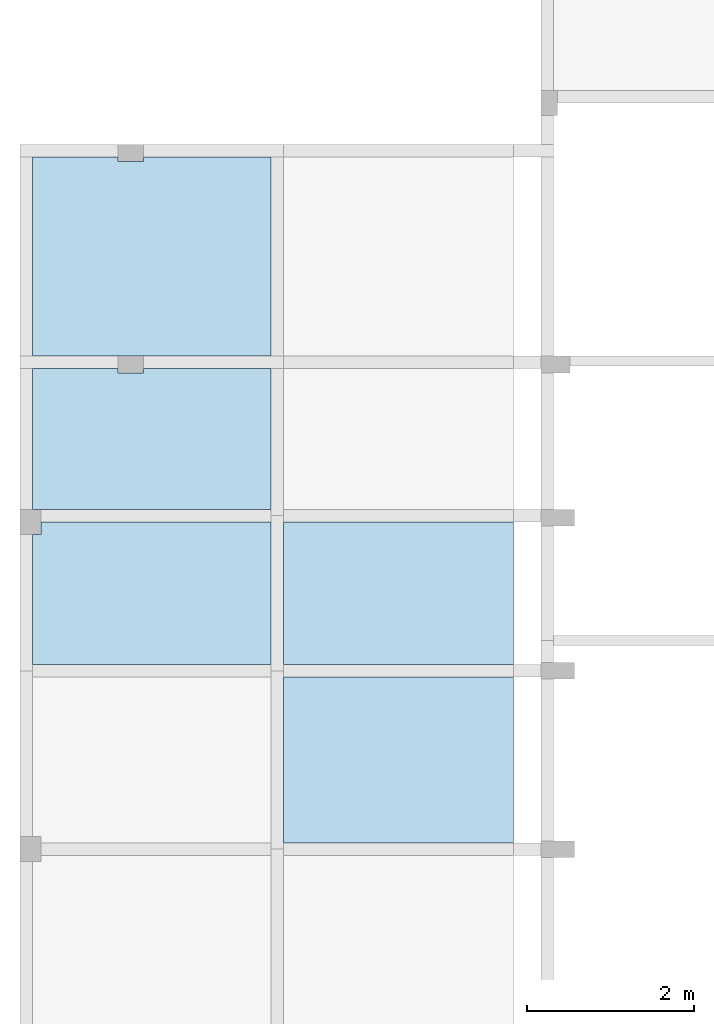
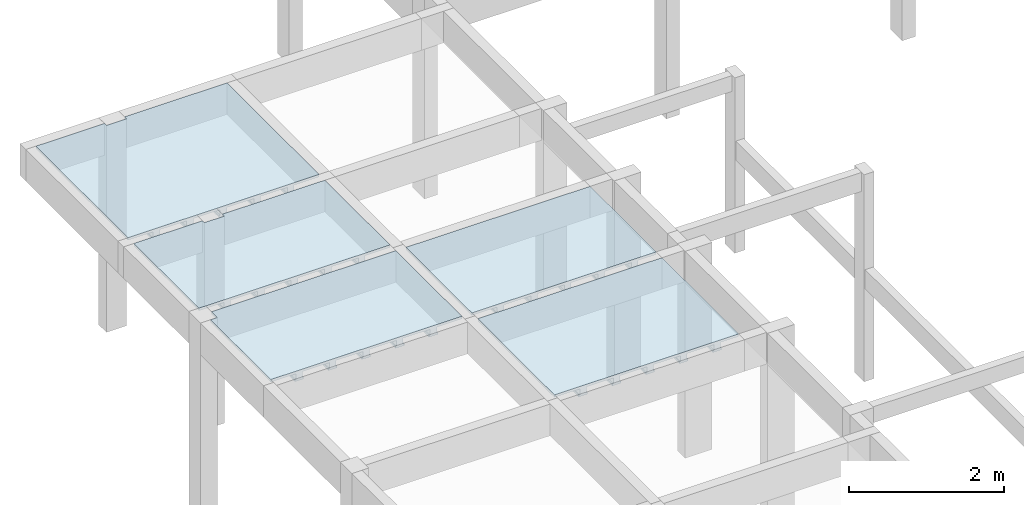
# One storey, part 4 of 6: 5 slabs.
"""IFC4 building model written with IfcOpenShell, lengths in centimetres."""

from ifc_helpers import new_model, si_unit, derived_unit, frame, origin_with_axes, place, context, project, spatial, polyline, outline, extrude, faceted_brep, material, element, save


model = new_model("IFC4")

# Units and contexts
model_context = context("Model", 3, precision=1e-05, world=origin_with_axes(), identifier="Body")
ifc_project = project(units=[si_unit("LENGTHUNIT", "METRE", prefix="CENTI"), si_unit("VOLUMEUNIT", "CUBIC_METRE"), si_unit("AREAUNIT", "SQUARE_METRE"), si_unit("POWERUNIT", "WATT"), si_unit("LUMINOUSFLUXUNIT", "LUMEN"), si_unit("ELECTRICCURRENTUNIT", "AMPERE"), si_unit("PRESSUREUNIT", "PASCAL", prefix="KILO"), si_unit("MASSUNIT", "GRAM", prefix="KILO"), si_unit("PLANEANGLEUNIT", "RADIAN"), derived_unit("VOLUMETRICFLOWRATEUNIT", [(si_unit("LENGTHUNIT", "METRE"), 3), (si_unit("TIMEUNIT", "SECOND"), -1)])], contexts=[model_context])

# Site, building, storey
site_placement = place(None, origin_with_axes())
site = spatial("IfcSite", under=ifc_project, at=site_placement)
building_placement = place(site_placement, frame((0.0, 0.0, -295.0)))
building = spatial("IfcBuilding", under=site, at=building_placement)
placement_1 = place(building_placement, origin_with_axes())
placement_2 = place(placement_1, frame((0.0, 0.0, 101.0), z_axis=(0.0, 0.0, 1.0), x_axis=(1.0, 0.0, 0.0)))
placement_3 = place(placement_2, frame((0.0, 0.0, 204.0), z_axis=(0.0, 0.0, 1.0), x_axis=(1.0, 0.0, 0.0)))
placement_4 = place(placement_3, frame((0.0, 0.0, 292.0), z_axis=(0.0, 0.0, 1.0), x_axis=(1.0, 0.0, 0.0)))
placement_5 = place(placement_4, frame((0.0, 0.0, 302.0), z_axis=(0.0, 0.0, 1.0), x_axis=(1.0, 0.0, 0.0)))
storey_placement = place(placement_5, frame((0.0, 0.0, 326.0), z_axis=(0.0, 0.0, 1.0), x_axis=(1.0, 0.0, 0.0)))
storey = spatial("IfcBuildingStorey", under=building, at=storey_placement, Name="COB CX DAGUA", CompositionType="ELEMENT", Elevation=930.0)

# Slabs
ifc_material = material(Name="Concreto")
slab_1_placement = place(storey_placement, frame((709.0655, -5618.0, 0.0), z_axis=(0.0, 0.0, 1.0), x_axis=(1.0, 0.0, 0.0)))
element("IfcSlab", 1, at=slab_1_placement, inside=storey, material=ifc_material, Name="L305", PredefinedType="FLOOR", context=model_context, shape_type="SolidModel", body=[
    extrude(outline(polyline([(142.335, 118.839), (-10.134, 118.84), (-10.135, 113.84), (-40.135, 113.84), (-40.134, 118.839), (-142.334, 118.84), (-142.334, -118.839), (142.335, -118.84), (142.335, 118.839), (142.335, 118.839)])), frame((-0.0005, 0.0, -4.0), z_axis=(0.0, 0.0, 1.0), x_axis=(1.0, 0.0, 0.0)), (0.0, 0.0, 1.0), 4.0),
    faceted_brep([(-5.0005, -118.8395, -16.0), (-5.0005, 118.8395, -16.0), (4.9995, 118.8395, -16.0), (4.9995, -118.8395, -16.0), (4.9995, -118.8395, -4.0), (4.9995, 118.8395, -4.0), (-5.0005, 118.8395, -4.0), (-5.0005, -118.8395, -4.0)], [[[0, 1, 2, 3]], [[4, 5, 6, 7]], [[4, 3, 5]], [[3, 2, 5]], [[5, 2, 6]], [[2, 1, 6]], [[6, 1, 7]], [[1, 0, 7]], [[7, 0, 4]], [[0, 3, 4]]]),
    faceted_brep([(-6.5005, -118.8395, -16.0), (-6.5005, 118.8395, -16.0), (-5.0005, 118.8395, -16.0), (-5.0005, -118.8395, -16.0), (-5.0005, -118.8395, -13.0), (-5.0005, 118.8395, -13.0), (-6.5005, 118.8395, -13.0), (-6.5005, -118.8395, -13.0)], [[[0, 1, 2, 3]], [[4, 5, 6, 7]], [[4, 3, 5]], [[3, 2, 5]], [[5, 2, 6]], [[2, 1, 6]], [[6, 1, 7]], [[1, 0, 7]], [[7, 0, 4]], [[0, 3, 4]]]),
    faceted_brep([(4.9995, -118.8395, -16.0), (4.9995, 118.8395, -16.0), (6.4995, 118.8395, -16.0), (6.4995, -118.8395, -16.0), (6.4995, -118.8395, -13.0), (6.4995, 118.8395, -13.0), (4.9995, 118.8395, -13.0), (4.9995, -118.8395, -13.0)], [[[0, 1, 2, 3]], [[4, 5, 6, 7]], [[4, 3, 5]], [[3, 2, 5]], [[5, 2, 6]], [[2, 1, 6]], [[6, 1, 7]], [[1, 0, 7]], [[7, 0, 4]], [[0, 3, 4]]]),
    faceted_brep([(-55.0005, -118.8395, -16.0), (-55.0005, 118.8395, -16.0), (-45.0005, 118.8395, -16.0), (-45.0005, -118.8395, -16.0), (-45.0005, -118.8395, -4.0), (-45.0005, 118.8395, -4.0), (-55.0005, 118.8395, -4.0), (-55.0005, -118.8395, -4.0)], [[[0, 1, 2, 3]], [[4, 5, 6, 7]], [[4, 3, 5]], [[3, 2, 5]], [[5, 2, 6]], [[2, 1, 6]], [[6, 1, 7]], [[1, 0, 7]], [[7, 0, 4]], [[0, 3, 4]]]),
    faceted_brep([(-56.5005, -118.8395, -16.0), (-56.5005, 118.8395, -16.0), (-55.0005, 118.8395, -16.0), (-55.0005, -118.8395, -16.0), (-55.0005, -118.8395, -13.0), (-55.0005, 118.8395, -13.0), (-56.5005, 118.8395, -13.0), (-56.5005, -118.8395, -13.0)], [[[0, 1, 2, 3]], [[4, 5, 6, 7]], [[4, 3, 5]], [[3, 2, 5]], [[5, 2, 6]], [[2, 1, 6]], [[6, 1, 7]], [[1, 0, 7]], [[7, 0, 4]], [[0, 3, 4]]]),
    faceted_brep([(-45.0005, -118.8395, -16.0), (-45.0005, 118.8395, -16.0), (-43.5005, 118.8395, -16.0), (-43.5005, -118.8395, -16.0), (-43.5005, -118.8395, -13.0), (-43.5005, 118.8395, -13.0), (-45.0005, 118.8395, -13.0), (-45.0005, -118.8395, -13.0)], [[[0, 1, 2, 3]], [[4, 5, 6, 7]], [[4, 3, 5]], [[3, 2, 5]], [[5, 2, 6]], [[2, 1, 6]], [[6, 1, 7]], [[1, 0, 7]], [[7, 0, 4]], [[0, 3, 4]]]),
    faceted_brep([(-105.0005, -118.8395, -16.0), (-105.0005, 118.8395, -16.0), (-95.0005, 118.8395, -16.0), (-95.0005, -118.8395, -16.0), (-95.0005, -118.8395, -4.0), (-95.0005, 118.8395, -4.0), (-105.0005, 118.8395, -4.0), (-105.0005, -118.8395, -4.0)], [[[0, 1, 2, 3]], [[4, 5, 6, 7]], [[4, 3, 5]], [[3, 2, 5]], [[5, 2, 6]], [[2, 1, 6]], [[6, 1, 7]], [[1, 0, 7]], [[7, 0, 4]], [[0, 3, 4]]]),
    faceted_brep([(-106.5005, -118.8395, -16.0), (-106.5005, 118.8395, -16.0), (-105.0005, 118.8395, -16.0), (-105.0005, -118.8395, -16.0), (-105.0005, -118.8395, -13.0), (-105.0005, 118.8395, -13.0), (-106.5005, 118.8395, -13.0), (-106.5005, -118.8395, -13.0)], [[[0, 1, 2, 3]], [[4, 5, 6, 7]], [[4, 3, 5]], [[3, 2, 5]], [[5, 2, 6]], [[2, 1, 6]], [[6, 1, 7]], [[1, 0, 7]], [[7, 0, 4]], [[0, 3, 4]]]),
    faceted_brep([(-95.0005, -118.8395, -16.0), (-95.0005, 118.8395, -16.0), (-93.5005, 118.8395, -16.0), (-93.5005, -118.8395, -16.0), (-93.5005, -118.8395, -13.0), (-93.5005, 118.8395, -13.0), (-95.0005, 118.8395, -13.0), (-95.0005, -118.8395, -13.0)], [[[0, 1, 2, 3]], [[4, 5, 6, 7]], [[4, 3, 5]], [[3, 2, 5]], [[5, 2, 6]], [[2, 1, 6]], [[6, 1, 7]], [[1, 0, 7]], [[7, 0, 4]], [[0, 3, 4]]]),
    faceted_brep([(44.9995, -118.8395, -16.0), (44.9995, 118.8395, -16.0), (54.9995, 118.8395, -16.0), (54.9995, -118.8395, -16.0), (54.9995, -118.8395, -4.0), (54.9995, 118.8395, -4.0), (44.9995, 118.8395, -4.0), (44.9995, -118.8395, -4.0)], [[[0, 1, 2, 3]], [[4, 5, 6, 7]], [[4, 3, 5]], [[3, 2, 5]], [[5, 2, 6]], [[2, 1, 6]], [[6, 1, 7]], [[1, 0, 7]], [[7, 0, 4]], [[0, 3, 4]]]),
    faceted_brep([(43.4995, -118.8395, -16.0), (43.4995, 118.8395, -16.0), (44.9995, 118.8395, -16.0), (44.9995, -118.8395, -16.0), (44.9995, -118.8395, -13.0), (44.9995, 118.8395, -13.0), (43.4995, 118.8395, -13.0), (43.4995, -118.8395, -13.0)], [[[0, 1, 2, 3]], [[4, 5, 6, 7]], [[4, 3, 5]], [[3, 2, 5]], [[5, 2, 6]], [[2, 1, 6]], [[6, 1, 7]], [[1, 0, 7]], [[7, 0, 4]], [[0, 3, 4]]]),
    faceted_brep([(54.9995, -118.8395, -16.0), (54.9995, 118.8395, -16.0), (56.4995, 118.8395, -16.0), (56.4995, -118.8395, -16.0), (56.4995, -118.8395, -13.0), (56.4995, 118.8395, -13.0), (54.9995, 118.8395, -13.0), (54.9995, -118.8395, -13.0)], [[[0, 1, 2, 3]], [[4, 5, 6, 7]], [[4, 3, 5]], [[3, 2, 5]], [[5, 2, 6]], [[2, 1, 6]], [[6, 1, 7]], [[1, 0, 7]], [[7, 0, 4]], [[0, 3, 4]]]),
    faceted_brep([(94.9995, -118.8395, -16.0), (94.9995, 118.8395, -16.0), (104.9995, 118.8395, -16.0), (104.9995, -118.8395, -16.0), (104.9995, -118.8395, -4.0), (104.9995, 118.8395, -4.0), (94.9995, 118.8395, -4.0), (94.9995, -118.8395, -4.0)], [[[0, 1, 2, 3]], [[4, 5, 6, 7]], [[4, 3, 5]], [[3, 2, 5]], [[5, 2, 6]], [[2, 1, 6]], [[6, 1, 7]], [[1, 0, 7]], [[7, 0, 4]], [[0, 3, 4]]]),
    faceted_brep([(93.4995, -118.8395, -16.0), (93.4995, 118.8395, -16.0), (94.9995, 118.8395, -16.0), (94.9995, -118.8395, -16.0), (94.9995, -118.8395, -13.0), (94.9995, 118.8395, -13.0), (93.4995, 118.8395, -13.0), (93.4995, -118.8395, -13.0)], [[[0, 1, 2, 3]], [[4, 5, 6, 7]], [[4, 3, 5]], [[3, 2, 5]], [[5, 2, 6]], [[2, 1, 6]], [[6, 1, 7]], [[1, 0, 7]], [[7, 0, 4]], [[0, 3, 4]]]),
    faceted_brep([(104.9995, -118.8395, -16.0), (104.9995, 118.8395, -16.0), (106.4995, 118.8395, -16.0), (106.4995, -118.8395, -16.0), (106.4995, -118.8395, -13.0), (106.4995, 118.8395, -13.0), (104.9995, 118.8395, -13.0), (104.9995, -118.8395, -13.0)], [[[0, 1, 2, 3]], [[4, 5, 6, 7]], [[4, 3, 5]], [[3, 2, 5]], [[5, 2, 6]], [[2, 1, 6]], [[6, 1, 7]], [[1, 0, 7]], [[7, 0, 4]], [[0, 3, 4]]]),
])
slab_2_placement = place(storey_placement, frame((709.065, -5835.845, 0.0), z_axis=(0.0, 0.0, 1.0), x_axis=(1.0, 0.0, 0.0)))
element("IfcSlab", 2, at=slab_2_placement, inside=storey, material=ifc_material, Name="L307", PredefinedType="FLOOR", context=model_context, shape_type="SolidModel", body=[
    extrude(outline(polyline([(142.335, -84.004), (142.334, 84.004), (-10.134, 84.005), (-10.135, 79.004), (-40.135, 79.004), (-40.134, 84.004), (-142.335, 84.004), (-142.335, -84.005), (142.335, -84.004), (142.335, -84.004)])), frame((0.0, 0.0, -4.0), z_axis=(0.0, 0.0, 1.0), x_axis=(1.0, 0.0, 0.0)), (0.0, 0.0, 1.0), 4.0),
    faceted_brep([(-5.0, -84.0045, -16.0), (-5.0, 84.0045, -16.0), (5.0, 84.0045, -16.0), (5.0, -84.0045, -16.0), (5.0, -84.0045, -4.0), (5.0, 84.0045, -4.0), (-5.0, 84.0045, -4.0), (-5.0, -84.0045, -4.0)], [[[0, 1, 2, 3]], [[4, 5, 6, 7]], [[4, 3, 5]], [[3, 2, 5]], [[5, 2, 6]], [[2, 1, 6]], [[6, 1, 7]], [[1, 0, 7]], [[7, 0, 4]], [[0, 3, 4]]]),
    faceted_brep([(-6.5, -84.0045, -16.0), (-6.5, 84.0045, -16.0), (-5.0, 84.0045, -16.0), (-5.0, -84.0045, -16.0), (-5.0, -84.0045, -13.0), (-5.0, 84.0045, -13.0), (-6.5, 84.0045, -13.0), (-6.5, -84.0045, -13.0)], [[[0, 1, 2, 3]], [[4, 5, 6, 7]], [[4, 3, 5]], [[3, 2, 5]], [[5, 2, 6]], [[2, 1, 6]], [[6, 1, 7]], [[1, 0, 7]], [[7, 0, 4]], [[0, 3, 4]]]),
    faceted_brep([(5.0, -84.0045, -16.0), (5.0, 84.0045, -16.0), (6.5, 84.0045, -16.0), (6.5, -84.0045, -16.0), (6.5, -84.0045, -13.0), (6.5, 84.0045, -13.0), (5.0, 84.0045, -13.0), (5.0, -84.0045, -13.0)], [[[0, 1, 2, 3]], [[4, 5, 6, 7]], [[4, 3, 5]], [[3, 2, 5]], [[5, 2, 6]], [[2, 1, 6]], [[6, 1, 7]], [[1, 0, 7]], [[7, 0, 4]], [[0, 3, 4]]]),
    faceted_brep([(-55.0, -84.0045, -16.0), (-55.0, 84.004, -16.0), (-45.0, 84.004, -16.0), (-45.0, -84.0045, -16.0), (-45.0, -84.0045, -4.0), (-45.0, 84.004, -4.0), (-55.0, 84.004, -4.0), (-55.0, -84.0045, -4.0)], [[[0, 1, 2, 3]], [[4, 5, 6, 7]], [[4, 3, 5]], [[3, 2, 5]], [[5, 2, 6]], [[2, 1, 6]], [[6, 1, 7]], [[1, 0, 7]], [[7, 0, 4]], [[0, 3, 4]]]),
    faceted_brep([(-56.5, -84.0045, -16.0), (-56.5, 84.004, -16.0), (-55.0, 84.004, -16.0), (-55.0, -84.0045, -16.0), (-55.0, -84.0045, -13.0), (-55.0, 84.004, -13.0), (-56.5, 84.004, -13.0), (-56.5, -84.0045, -13.0)], [[[0, 1, 2, 3]], [[4, 5, 6, 7]], [[4, 3, 5]], [[3, 2, 5]], [[5, 2, 6]], [[2, 1, 6]], [[6, 1, 7]], [[1, 0, 7]], [[7, 0, 4]], [[0, 3, 4]]]),
    faceted_brep([(-45.0, -84.0045, -16.0), (-45.0, 84.004, -16.0), (-43.5, 84.004, -16.0), (-43.5, -84.0045, -16.0), (-43.5, -84.0045, -13.0), (-43.5, 84.004, -13.0), (-45.0, 84.004, -13.0), (-45.0, -84.0045, -13.0)], [[[0, 1, 2, 3]], [[4, 5, 6, 7]], [[4, 3, 5]], [[3, 2, 5]], [[5, 2, 6]], [[2, 1, 6]], [[6, 1, 7]], [[1, 0, 7]], [[7, 0, 4]], [[0, 3, 4]]]),
    faceted_brep([(-105.0, -84.0045, -16.0), (-105.0, 84.004, -16.0), (-95.0, 84.004, -16.0), (-95.0, -84.0045, -16.0), (-95.0, -84.0045, -4.0), (-95.0, 84.004, -4.0), (-105.0, 84.004, -4.0), (-105.0, -84.0045, -4.0)], [[[0, 1, 2, 3]], [[4, 5, 6, 7]], [[4, 3, 5]], [[3, 2, 5]], [[5, 2, 6]], [[2, 1, 6]], [[6, 1, 7]], [[1, 0, 7]], [[7, 0, 4]], [[0, 3, 4]]]),
    faceted_brep([(-106.5, -84.0045, -16.0), (-106.5, 84.004, -16.0), (-105.0, 84.004, -16.0), (-105.0, -84.0045, -16.0), (-105.0, -84.0045, -13.0), (-105.0, 84.004, -13.0), (-106.5, 84.004, -13.0), (-106.5, -84.0045, -13.0)], [[[0, 1, 2, 3]], [[4, 5, 6, 7]], [[4, 3, 5]], [[3, 2, 5]], [[5, 2, 6]], [[2, 1, 6]], [[6, 1, 7]], [[1, 0, 7]], [[7, 0, 4]], [[0, 3, 4]]]),
    faceted_brep([(-95.0, -84.0045, -16.0), (-95.0, 84.004, -16.0), (-93.5, 84.004, -16.0), (-93.5, -84.0045, -16.0), (-93.5, -84.0045, -13.0), (-93.5, 84.004, -13.0), (-95.0, 84.004, -13.0), (-95.0, -84.0045, -13.0)], [[[0, 1, 2, 3]], [[4, 5, 6, 7]], [[4, 3, 5]], [[3, 2, 5]], [[5, 2, 6]], [[2, 1, 6]], [[6, 1, 7]], [[1, 0, 7]], [[7, 0, 4]], [[0, 3, 4]]]),
    faceted_brep([(45.0, -84.0045, -16.0), (45.0, 84.0045, -16.0), (55.0, 84.0045, -16.0), (55.0, -84.0045, -16.0), (55.0, -84.0045, -4.0), (55.0, 84.0045, -4.0), (45.0, 84.0045, -4.0), (45.0, -84.0045, -4.0)], [[[0, 1, 2, 3]], [[4, 5, 6, 7]], [[4, 3, 5]], [[3, 2, 5]], [[5, 2, 6]], [[2, 1, 6]], [[6, 1, 7]], [[1, 0, 7]], [[7, 0, 4]], [[0, 3, 4]]]),
    faceted_brep([(43.5, -84.0045, -16.0), (43.5, 84.0045, -16.0), (45.0, 84.0045, -16.0), (45.0, -84.0045, -16.0), (45.0, -84.0045, -13.0), (45.0, 84.0045, -13.0), (43.5, 84.0045, -13.0), (43.5, -84.0045, -13.0)], [[[0, 1, 2, 3]], [[4, 5, 6, 7]], [[4, 3, 5]], [[3, 2, 5]], [[5, 2, 6]], [[2, 1, 6]], [[6, 1, 7]], [[1, 0, 7]], [[7, 0, 4]], [[0, 3, 4]]]),
    faceted_brep([(55.0, -84.0045, -16.0), (55.0, 84.0045, -16.0), (56.5, 84.0045, -16.0), (56.5, -84.0045, -16.0), (56.5, -84.0045, -13.0), (56.5, 84.0045, -13.0), (55.0, 84.0045, -13.0), (55.0, -84.0045, -13.0)], [[[0, 1, 2, 3]], [[4, 5, 6, 7]], [[4, 3, 5]], [[3, 2, 5]], [[5, 2, 6]], [[2, 1, 6]], [[6, 1, 7]], [[1, 0, 7]], [[7, 0, 4]], [[0, 3, 4]]]),
    faceted_brep([(95.0, -84.0045, -16.0), (95.0, 84.0045, -16.0), (105.0, 84.0045, -16.0), (105.0, -84.0045, -16.0), (105.0, -84.0045, -4.0), (105.0, 84.0045, -4.0), (95.0, 84.0045, -4.0), (95.0, -84.0045, -4.0)], [[[0, 1, 2, 3]], [[4, 5, 6, 7]], [[4, 3, 5]], [[3, 2, 5]], [[5, 2, 6]], [[2, 1, 6]], [[6, 1, 7]], [[1, 0, 7]], [[7, 0, 4]], [[0, 3, 4]]]),
    faceted_brep([(93.5, -84.0045, -16.0), (93.5, 84.0045, -16.0), (95.0, 84.0045, -16.0), (95.0, -84.0045, -16.0), (95.0, -84.0045, -13.0), (95.0, 84.0045, -13.0), (93.5, 84.0045, -13.0), (93.5, -84.0045, -13.0)], [[[0, 1, 2, 3]], [[4, 5, 6, 7]], [[4, 3, 5]], [[3, 2, 5]], [[5, 2, 6]], [[2, 1, 6]], [[6, 1, 7]], [[1, 0, 7]], [[7, 0, 4]], [[0, 3, 4]]]),
    faceted_brep([(105.0, -84.0045, -16.0), (105.0, 84.0045, -16.0), (106.5, 84.0045, -16.0), (106.5, -84.0045, -16.0), (106.5, -84.0045, -13.0), (106.5, 84.0045, -13.0), (105.0, 84.0045, -13.0), (105.0, -84.0045, -13.0)], [[[0, 1, 2, 3]], [[4, 5, 6, 7]], [[4, 3, 5]], [[3, 2, 5]], [[5, 2, 6]], [[2, 1, 6]], [[6, 1, 7]], [[1, 0, 7]], [[7, 0, 4]], [[0, 3, 4]]]),
])
slab_3_placement = place(storey_placement, frame((709.0645, -6020.0245, 0.0), z_axis=(0.0, 0.0, 1.0), x_axis=(1.0, 0.0, 0.0)))
element("IfcSlab", 3, at=slab_3_placement, inside=storey, material=ifc_material, Name="L309", PredefinedType="FLOOR", context=model_context, shape_type="SolidModel", body=[
    extrude(outline(polyline([(142.334, 85.175), (-132.335, 85.175), (-132.334, 70.174), (-142.335, 70.175), (-142.335, -85.174), (142.334, -85.174), (142.334, 85.175), (142.334, 85.175)])), frame((0.0005, -0.0005, -4.0), z_axis=(0.0, 0.0, 1.0), x_axis=(1.0, 0.0, 0.0)), (0.0, 0.0, 1.0), 4.0),
    faceted_brep([(-4.9995, -85.1745, -16.0), (-4.9995, 85.1745, -16.0), (5.0005, 85.1745, -16.0), (5.0005, -85.1745, -16.0), (5.0005, -85.1745, -4.0), (5.0005, 85.1745, -4.0), (-4.9995, 85.1745, -4.0), (-4.9995, -85.1745, -4.0)], [[[0, 1, 2, 3]], [[4, 5, 6, 7]], [[4, 3, 5]], [[3, 2, 5]], [[5, 2, 6]], [[2, 1, 6]], [[6, 1, 7]], [[1, 0, 7]], [[7, 0, 4]], [[0, 3, 4]]]),
    faceted_brep([(-6.4995, -85.1745, -16.0), (-6.4995, 85.1745, -16.0), (-4.9995, 85.1745, -16.0), (-4.9995, -85.1745, -16.0), (-4.9995, -85.1745, -13.0), (-4.9995, 85.1745, -13.0), (-6.4995, 85.1745, -13.0), (-6.4995, -85.1745, -13.0)], [[[0, 1, 2, 3]], [[4, 5, 6, 7]], [[4, 3, 5]], [[3, 2, 5]], [[5, 2, 6]], [[2, 1, 6]], [[6, 1, 7]], [[1, 0, 7]], [[7, 0, 4]], [[0, 3, 4]]]),
    faceted_brep([(5.0005, -85.1745, -16.0), (5.0005, 85.1745, -16.0), (6.5005, 85.1745, -16.0), (6.5005, -85.1745, -16.0), (6.5005, -85.1745, -13.0), (6.5005, 85.1745, -13.0), (5.0005, 85.1745, -13.0), (5.0005, -85.1745, -13.0)], [[[0, 1, 2, 3]], [[4, 5, 6, 7]], [[4, 3, 5]], [[3, 2, 5]], [[5, 2, 6]], [[2, 1, 6]], [[6, 1, 7]], [[1, 0, 7]], [[7, 0, 4]], [[0, 3, 4]]]),
    faceted_brep([(-54.9995, -85.1745, -16.0), (-54.9995, 85.1745, -16.0), (-44.9995, 85.1745, -16.0), (-44.9995, -85.1745, -16.0), (-44.9995, -85.1745, -4.0), (-44.9995, 85.1745, -4.0), (-54.9995, 85.1745, -4.0), (-54.9995, -85.1745, -4.0)], [[[0, 1, 2, 3]], [[4, 5, 6, 7]], [[4, 3, 5]], [[3, 2, 5]], [[5, 2, 6]], [[2, 1, 6]], [[6, 1, 7]], [[1, 0, 7]], [[7, 0, 4]], [[0, 3, 4]]]),
    faceted_brep([(-56.4995, -85.1745, -16.0), (-56.4995, 85.1745, -16.0), (-54.9995, 85.1745, -16.0), (-54.9995, -85.1745, -16.0), (-54.9995, -85.1745, -13.0), (-54.9995, 85.1745, -13.0), (-56.4995, 85.1745, -13.0), (-56.4995, -85.1745, -13.0)], [[[0, 1, 2, 3]], [[4, 5, 6, 7]], [[4, 3, 5]], [[3, 2, 5]], [[5, 2, 6]], [[2, 1, 6]], [[6, 1, 7]], [[1, 0, 7]], [[7, 0, 4]], [[0, 3, 4]]]),
    faceted_brep([(-44.9995, -85.1745, -16.0), (-44.9995, 85.1745, -16.0), (-43.4995, 85.1745, -16.0), (-43.4995, -85.1745, -16.0), (-43.4995, -85.1745, -13.0), (-43.4995, 85.1745, -13.0), (-44.9995, 85.1745, -13.0), (-44.9995, -85.1745, -13.0)], [[[0, 1, 2, 3]], [[4, 5, 6, 7]], [[4, 3, 5]], [[3, 2, 5]], [[5, 2, 6]], [[2, 1, 6]], [[6, 1, 7]], [[1, 0, 7]], [[7, 0, 4]], [[0, 3, 4]]]),
    faceted_brep([(-104.9995, -85.1745, -16.0), (-104.9995, 85.1745, -16.0), (-94.9995, 85.1745, -16.0), (-94.9995, -85.1745, -16.0), (-94.9995, -85.1745, -4.0), (-94.9995, 85.1745, -4.0), (-104.9995, 85.1745, -4.0), (-104.9995, -85.1745, -4.0)], [[[0, 1, 2, 3]], [[4, 5, 6, 7]], [[4, 3, 5]], [[3, 2, 5]], [[5, 2, 6]], [[2, 1, 6]], [[6, 1, 7]], [[1, 0, 7]], [[7, 0, 4]], [[0, 3, 4]]]),
    faceted_brep([(-106.4995, -85.1745, -16.0), (-106.4995, 85.1745, -16.0), (-104.9995, 85.1745, -16.0), (-104.9995, -85.1745, -16.0), (-104.9995, -85.1745, -13.0), (-104.9995, 85.1745, -13.0), (-106.4995, 85.1745, -13.0), (-106.4995, -85.1745, -13.0)], [[[0, 1, 2, 3]], [[4, 5, 6, 7]], [[4, 3, 5]], [[3, 2, 5]], [[5, 2, 6]], [[2, 1, 6]], [[6, 1, 7]], [[1, 0, 7]], [[7, 0, 4]], [[0, 3, 4]]]),
    faceted_brep([(-94.9995, -85.1745, -16.0), (-94.9995, 85.1745, -16.0), (-93.4995, 85.1745, -16.0), (-93.4995, -85.1745, -16.0), (-93.4995, -85.1745, -13.0), (-93.4995, 85.1745, -13.0), (-94.9995, 85.1745, -13.0), (-94.9995, -85.1745, -13.0)], [[[0, 1, 2, 3]], [[4, 5, 6, 7]], [[4, 3, 5]], [[3, 2, 5]], [[5, 2, 6]], [[2, 1, 6]], [[6, 1, 7]], [[1, 0, 7]], [[7, 0, 4]], [[0, 3, 4]]]),
    faceted_brep([(45.0005, -85.1745, -16.0), (45.0005, 85.1745, -16.0), (55.0005, 85.1745, -16.0), (55.0005, -85.1745, -16.0), (55.0005, -85.1745, -4.0), (55.0005, 85.1745, -4.0), (45.0005, 85.1745, -4.0), (45.0005, -85.1745, -4.0)], [[[0, 1, 2, 3]], [[4, 5, 6, 7]], [[4, 3, 5]], [[3, 2, 5]], [[5, 2, 6]], [[2, 1, 6]], [[6, 1, 7]], [[1, 0, 7]], [[7, 0, 4]], [[0, 3, 4]]]),
    faceted_brep([(43.5005, -85.1745, -16.0), (43.5005, 85.1745, -16.0), (45.0005, 85.1745, -16.0), (45.0005, -85.1745, -16.0), (45.0005, -85.1745, -13.0), (45.0005, 85.1745, -13.0), (43.5005, 85.1745, -13.0), (43.5005, -85.1745, -13.0)], [[[0, 1, 2, 3]], [[4, 5, 6, 7]], [[4, 3, 5]], [[3, 2, 5]], [[5, 2, 6]], [[2, 1, 6]], [[6, 1, 7]], [[1, 0, 7]], [[7, 0, 4]], [[0, 3, 4]]]),
    faceted_brep([(55.0005, -85.1745, -16.0), (55.0005, 85.1745, -16.0), (56.5005, 85.1745, -16.0), (56.5005, -85.1745, -16.0), (56.5005, -85.1745, -13.0), (56.5005, 85.1745, -13.0), (55.0005, 85.1745, -13.0), (55.0005, -85.1745, -13.0)], [[[0, 1, 2, 3]], [[4, 5, 6, 7]], [[4, 3, 5]], [[3, 2, 5]], [[5, 2, 6]], [[2, 1, 6]], [[6, 1, 7]], [[1, 0, 7]], [[7, 0, 4]], [[0, 3, 4]]]),
    faceted_brep([(95.0005, -85.1745, -16.0), (95.0005, 85.1745, -16.0), (105.0005, 85.1745, -16.0), (105.0005, -85.1745, -16.0), (105.0005, -85.1745, -4.0), (105.0005, 85.1745, -4.0), (95.0005, 85.1745, -4.0), (95.0005, -85.1745, -4.0)], [[[0, 1, 2, 3]], [[4, 5, 6, 7]], [[4, 3, 5]], [[3, 2, 5]], [[5, 2, 6]], [[2, 1, 6]], [[6, 1, 7]], [[1, 0, 7]], [[7, 0, 4]], [[0, 3, 4]]]),
    faceted_brep([(93.5005, -85.1745, -16.0), (93.5005, 85.1745, -16.0), (95.0005, 85.1745, -16.0), (95.0005, -85.1745, -16.0), (95.0005, -85.1745, -13.0), (95.0005, 85.1745, -13.0), (93.5005, 85.1745, -13.0), (93.5005, -85.1745, -13.0)], [[[0, 1, 2, 3]], [[4, 5, 6, 7]], [[4, 3, 5]], [[3, 2, 5]], [[5, 2, 6]], [[2, 1, 6]], [[6, 1, 7]], [[1, 0, 7]], [[7, 0, 4]], [[0, 3, 4]]]),
    faceted_brep([(105.0005, -85.1745, -16.0), (105.0005, 85.1745, -16.0), (106.5005, 85.1745, -16.0), (106.5005, -85.1745, -16.0), (106.5005, -85.1745, -13.0), (106.5005, 85.1745, -13.0), (105.0005, 85.1745, -13.0), (105.0005, -85.1745, -13.0)], [[[0, 1, 2, 3]], [[4, 5, 6, 7]], [[4, 3, 5]], [[3, 2, 5]], [[5, 2, 6]], [[2, 1, 6]], [[6, 1, 7]], [[1, 0, 7]], [[7, 0, 4]], [[0, 3, 4]]]),
])
slab_4_placement = place(storey_placement, frame((1003.65, -6020.0255, 0.0), z_axis=(0.0, 0.0, 1.0), x_axis=(1.0, 0.0, 0.0)))
element("IfcSlab", 4, at=slab_4_placement, inside=storey, material=ifc_material, Name="L310", PredefinedType="FLOOR", context=model_context, shape_type="SolidModel", body=[
    extrude(outline(polyline([(137.25, -85.174), (137.25, 85.174), (-137.25, 85.174), (-137.249, -85.175), (137.25, -85.174), (137.25, -85.174)])), frame((0.0, 0.0005, -4.0), z_axis=(0.0, 0.0, 1.0), x_axis=(1.0, 0.0, 0.0)), (0.0, 0.0, 1.0), 4.0),
    faceted_brep([(-49.585, -85.174, -16.0), (-49.585, 85.1745, -16.0), (-39.585, 85.1745, -16.0), (-39.585, -85.174, -16.0), (-39.585, -85.174, -4.0), (-39.585, 85.1745, -4.0), (-49.585, 85.1745, -4.0), (-49.585, -85.174, -4.0)], [[[0, 1, 2, 3]], [[4, 5, 6, 7]], [[4, 3, 5]], [[3, 2, 5]], [[5, 2, 6]], [[2, 1, 6]], [[6, 1, 7]], [[1, 0, 7]], [[7, 0, 4]], [[0, 3, 4]]]),
    faceted_brep([(-51.085, -85.174, -16.0), (-51.085, 85.1745, -16.0), (-49.585, 85.1745, -16.0), (-49.585, -85.174, -16.0), (-49.585, -85.174, -13.0), (-49.585, 85.1745, -13.0), (-51.085, 85.1745, -13.0), (-51.085, -85.174, -13.0)], [[[0, 1, 2, 3]], [[4, 5, 6, 7]], [[4, 3, 5]], [[3, 2, 5]], [[5, 2, 6]], [[2, 1, 6]], [[6, 1, 7]], [[1, 0, 7]], [[7, 0, 4]], [[0, 3, 4]]]),
    faceted_brep([(-39.585, -85.174, -16.0), (-39.585, 85.1745, -16.0), (-38.085, 85.1745, -16.0), (-38.085, -85.174, -16.0), (-38.085, -85.174, -13.0), (-38.085, 85.1745, -13.0), (-39.585, 85.1745, -13.0), (-39.585, -85.174, -13.0)], [[[0, 1, 2, 3]], [[4, 5, 6, 7]], [[4, 3, 5]], [[3, 2, 5]], [[5, 2, 6]], [[2, 1, 6]], [[6, 1, 7]], [[1, 0, 7]], [[7, 0, 4]], [[0, 3, 4]]]),
    faceted_brep([(-99.585, -85.174, -16.0), (-99.585, 85.1745, -16.0), (-89.585, 85.1745, -16.0), (-89.585, -85.174, -16.0), (-89.585, -85.174, -4.0), (-89.585, 85.1745, -4.0), (-99.585, 85.1745, -4.0), (-99.585, -85.174, -4.0)], [[[0, 1, 2, 3]], [[4, 5, 6, 7]], [[4, 3, 5]], [[3, 2, 5]], [[5, 2, 6]], [[2, 1, 6]], [[6, 1, 7]], [[1, 0, 7]], [[7, 0, 4]], [[0, 3, 4]]]),
    faceted_brep([(-101.085, -85.174, -16.0), (-101.085, 85.1745, -16.0), (-99.585, 85.1745, -16.0), (-99.585, -85.174, -16.0), (-99.585, -85.174, -13.0), (-99.585, 85.1745, -13.0), (-101.085, 85.1745, -13.0), (-101.085, -85.174, -13.0)], [[[0, 1, 2, 3]], [[4, 5, 6, 7]], [[4, 3, 5]], [[3, 2, 5]], [[5, 2, 6]], [[2, 1, 6]], [[6, 1, 7]], [[1, 0, 7]], [[7, 0, 4]], [[0, 3, 4]]]),
    faceted_brep([(-89.585, -85.174, -16.0), (-89.585, 85.1745, -16.0), (-88.085, 85.1745, -16.0), (-88.085, -85.174, -16.0), (-88.085, -85.174, -13.0), (-88.085, 85.1745, -13.0), (-89.585, 85.1745, -13.0), (-89.585, -85.174, -13.0)], [[[0, 1, 2, 3]], [[4, 5, 6, 7]], [[4, 3, 5]], [[3, 2, 5]], [[5, 2, 6]], [[2, 1, 6]], [[6, 1, 7]], [[1, 0, 7]], [[7, 0, 4]], [[0, 3, 4]]]),
    faceted_brep([(0.415, -85.174, -16.0), (0.415, 85.1745, -16.0), (10.415, 85.1745, -16.0), (10.415, -85.174, -16.0), (10.415, -85.174, -4.0), (10.415, 85.1745, -4.0), (0.415, 85.1745, -4.0), (0.415, -85.174, -4.0)], [[[0, 1, 2, 3]], [[4, 5, 6, 7]], [[4, 3, 5]], [[3, 2, 5]], [[5, 2, 6]], [[2, 1, 6]], [[6, 1, 7]], [[1, 0, 7]], [[7, 0, 4]], [[0, 3, 4]]]),
    faceted_brep([(-1.085, -85.174, -16.0), (-1.085, 85.1745, -16.0), (0.415, 85.1745, -16.0), (0.415, -85.174, -16.0), (0.415, -85.174, -13.0), (0.415, 85.1745, -13.0), (-1.085, 85.1745, -13.0), (-1.085, -85.174, -13.0)], [[[0, 1, 2, 3]], [[4, 5, 6, 7]], [[4, 3, 5]], [[3, 2, 5]], [[5, 2, 6]], [[2, 1, 6]], [[6, 1, 7]], [[1, 0, 7]], [[7, 0, 4]], [[0, 3, 4]]]),
    faceted_brep([(10.415, -85.174, -16.0), (10.415, 85.1745, -16.0), (11.915, 85.1745, -16.0), (11.915, -85.174, -16.0), (11.915, -85.174, -13.0), (11.915, 85.1745, -13.0), (10.415, 85.1745, -13.0), (10.415, -85.174, -13.0)], [[[0, 1, 2, 3]], [[4, 5, 6, 7]], [[4, 3, 5]], [[3, 2, 5]], [[5, 2, 6]], [[2, 1, 6]], [[6, 1, 7]], [[1, 0, 7]], [[7, 0, 4]], [[0, 3, 4]]]),
    faceted_brep([(50.415, -85.174, -16.0), (50.415, 85.1745, -16.0), (60.415, 85.1745, -16.0), (60.415, -85.174, -16.0), (60.415, -85.174, -4.0), (60.415, 85.1745, -4.0), (50.415, 85.1745, -4.0), (50.415, -85.174, -4.0)], [[[0, 1, 2, 3]], [[4, 5, 6, 7]], [[4, 3, 5]], [[3, 2, 5]], [[5, 2, 6]], [[2, 1, 6]], [[6, 1, 7]], [[1, 0, 7]], [[7, 0, 4]], [[0, 3, 4]]]),
    faceted_brep([(48.915, -85.174, -16.0), (48.915, 85.1745, -16.0), (50.415, 85.1745, -16.0), (50.415, -85.174, -16.0), (50.415, -85.174, -13.0), (50.415, 85.1745, -13.0), (48.915, 85.1745, -13.0), (48.915, -85.174, -13.0)], [[[0, 1, 2, 3]], [[4, 5, 6, 7]], [[4, 3, 5]], [[3, 2, 5]], [[5, 2, 6]], [[2, 1, 6]], [[6, 1, 7]], [[1, 0, 7]], [[7, 0, 4]], [[0, 3, 4]]]),
    faceted_brep([(60.415, -85.174, -16.0), (60.415, 85.1745, -16.0), (61.915, 85.1745, -16.0), (61.915, -85.174, -16.0), (61.915, -85.174, -13.0), (61.915, 85.1745, -13.0), (60.415, 85.1745, -13.0), (60.415, -85.174, -13.0)], [[[0, 1, 2, 3]], [[4, 5, 6, 7]], [[4, 3, 5]], [[3, 2, 5]], [[5, 2, 6]], [[2, 1, 6]], [[6, 1, 7]], [[1, 0, 7]], [[7, 0, 4]], [[0, 3, 4]]]),
    faceted_brep([(100.415, -85.174, -16.0), (100.415, 85.1745, -16.0), (110.415, 85.1745, -16.0), (110.415, -85.174, -16.0), (110.415, -85.174, -4.0), (110.415, 85.1745, -4.0), (100.415, 85.1745, -4.0), (100.415, -85.174, -4.0)], [[[0, 1, 2, 3]], [[4, 5, 6, 7]], [[4, 3, 5]], [[3, 2, 5]], [[5, 2, 6]], [[2, 1, 6]], [[6, 1, 7]], [[1, 0, 7]], [[7, 0, 4]], [[0, 3, 4]]]),
    faceted_brep([(98.915, -85.174, -16.0), (98.915, 85.1745, -16.0), (100.415, 85.1745, -16.0), (100.415, -85.174, -16.0), (100.415, -85.174, -13.0), (100.415, 85.1745, -13.0), (98.915, 85.1745, -13.0), (98.915, -85.174, -13.0)], [[[0, 1, 2, 3]], [[4, 5, 6, 7]], [[4, 3, 5]], [[3, 2, 5]], [[5, 2, 6]], [[2, 1, 6]], [[6, 1, 7]], [[1, 0, 7]], [[7, 0, 4]], [[0, 3, 4]]]),
    faceted_brep([(110.415, -85.174, -16.0), (110.415, 85.1745, -16.0), (111.915, 85.1745, -16.0), (111.915, -85.174, -16.0), (111.915, -85.174, -13.0), (111.915, 85.1745, -13.0), (110.415, 85.1745, -13.0), (110.415, -85.174, -13.0)], [[[0, 1, 2, 3]], [[4, 5, 6, 7]], [[4, 3, 5]], [[3, 2, 5]], [[5, 2, 6]], [[2, 1, 6]], [[6, 1, 7]], [[1, 0, 7]], [[7, 0, 4]], [[0, 3, 4]]]),
])
slab_5_placement = place(storey_placement, frame((1003.65, -6219.1595, 0.0), z_axis=(0.0, 0.0, 1.0), x_axis=(1.0, 0.0, 0.0)))
element("IfcSlab", 5, at=slab_5_placement, inside=storey, material=ifc_material, Name="L312", PredefinedType="FLOOR", context=model_context, shape_type="SolidModel", body=[
    extrude(outline(polyline([(137.25, 98.96), (-137.249, 98.959), (-137.25, -98.959), (137.25, -98.959), (137.25, 98.96), (137.25, 98.96)])), frame((0.0, -0.0005, -4.0), z_axis=(0.0, 0.0, 1.0), x_axis=(1.0, 0.0, 0.0)), (0.0, 0.0, 1.0), 4.0),
    faceted_brep([(-49.585, -98.9595, -16.0), (-49.585, 98.959, -16.0), (-39.585, 98.959, -16.0), (-39.585, -98.9595, -16.0), (-39.585, -98.9595, -4.0), (-39.585, 98.959, -4.0), (-49.585, 98.959, -4.0), (-49.585, -98.9595, -4.0)], [[[0, 1, 2, 3]], [[4, 5, 6, 7]], [[4, 3, 5]], [[3, 2, 5]], [[5, 2, 6]], [[2, 1, 6]], [[6, 1, 7]], [[1, 0, 7]], [[7, 0, 4]], [[0, 3, 4]]]),
    faceted_brep([(-51.085, -98.9595, -16.0), (-51.085, 98.959, -16.0), (-49.585, 98.959, -16.0), (-49.585, -98.9595, -16.0), (-49.585, -98.9595, -13.0), (-49.585, 98.959, -13.0), (-51.085, 98.959, -13.0), (-51.085, -98.9595, -13.0)], [[[0, 1, 2, 3]], [[4, 5, 6, 7]], [[4, 3, 5]], [[3, 2, 5]], [[5, 2, 6]], [[2, 1, 6]], [[6, 1, 7]], [[1, 0, 7]], [[7, 0, 4]], [[0, 3, 4]]]),
    faceted_brep([(-39.585, -98.9595, -16.0), (-39.585, 98.959, -16.0), (-38.085, 98.959, -16.0), (-38.085, -98.9595, -16.0), (-38.085, -98.9595, -13.0), (-38.085, 98.959, -13.0), (-39.585, 98.959, -13.0), (-39.585, -98.9595, -13.0)], [[[0, 1, 2, 3]], [[4, 5, 6, 7]], [[4, 3, 5]], [[3, 2, 5]], [[5, 2, 6]], [[2, 1, 6]], [[6, 1, 7]], [[1, 0, 7]], [[7, 0, 4]], [[0, 3, 4]]]),
    faceted_brep([(-99.585, -98.9595, -16.0), (-99.585, 98.959, -16.0), (-89.585, 98.959, -16.0), (-89.585, -98.9595, -16.0), (-89.585, -98.9595, -4.0), (-89.585, 98.959, -4.0), (-99.585, 98.959, -4.0), (-99.585, -98.9595, -4.0)], [[[0, 1, 2, 3]], [[4, 5, 6, 7]], [[4, 3, 5]], [[3, 2, 5]], [[5, 2, 6]], [[2, 1, 6]], [[6, 1, 7]], [[1, 0, 7]], [[7, 0, 4]], [[0, 3, 4]]]),
    faceted_brep([(-101.085, -98.9595, -16.0), (-101.085, 98.959, -16.0), (-99.585, 98.959, -16.0), (-99.585, -98.9595, -16.0), (-99.585, -98.9595, -13.0), (-99.585, 98.959, -13.0), (-101.085, 98.959, -13.0), (-101.085, -98.9595, -13.0)], [[[0, 1, 2, 3]], [[4, 5, 6, 7]], [[4, 3, 5]], [[3, 2, 5]], [[5, 2, 6]], [[2, 1, 6]], [[6, 1, 7]], [[1, 0, 7]], [[7, 0, 4]], [[0, 3, 4]]]),
    faceted_brep([(-89.585, -98.9595, -16.0), (-89.585, 98.959, -16.0), (-88.085, 98.959, -16.0), (-88.085, -98.9595, -16.0), (-88.085, -98.9595, -13.0), (-88.085, 98.959, -13.0), (-89.585, 98.959, -13.0), (-89.585, -98.9595, -13.0)], [[[0, 1, 2, 3]], [[4, 5, 6, 7]], [[4, 3, 5]], [[3, 2, 5]], [[5, 2, 6]], [[2, 1, 6]], [[6, 1, 7]], [[1, 0, 7]], [[7, 0, 4]], [[0, 3, 4]]]),
    faceted_brep([(0.415, -98.9595, -16.0), (0.415, 98.959, -16.0), (10.415, 98.959, -16.0), (10.415, -98.9595, -16.0), (10.415, -98.9595, -4.0), (10.415, 98.959, -4.0), (0.415, 98.959, -4.0), (0.415, -98.9595, -4.0)], [[[0, 1, 2, 3]], [[4, 5, 6, 7]], [[4, 3, 5]], [[3, 2, 5]], [[5, 2, 6]], [[2, 1, 6]], [[6, 1, 7]], [[1, 0, 7]], [[7, 0, 4]], [[0, 3, 4]]]),
    faceted_brep([(-1.085, -98.9595, -16.0), (-1.085, 98.959, -16.0), (0.415, 98.959, -16.0), (0.415, -98.9595, -16.0), (0.415, -98.9595, -13.0), (0.415, 98.959, -13.0), (-1.085, 98.959, -13.0), (-1.085, -98.9595, -13.0)], [[[0, 1, 2, 3]], [[4, 5, 6, 7]], [[4, 3, 5]], [[3, 2, 5]], [[5, 2, 6]], [[2, 1, 6]], [[6, 1, 7]], [[1, 0, 7]], [[7, 0, 4]], [[0, 3, 4]]]),
    faceted_brep([(10.415, -98.9595, -16.0), (10.415, 98.959, -16.0), (11.915, 98.959, -16.0), (11.915, -98.9595, -16.0), (11.915, -98.9595, -13.0), (11.915, 98.959, -13.0), (10.415, 98.959, -13.0), (10.415, -98.9595, -13.0)], [[[0, 1, 2, 3]], [[4, 5, 6, 7]], [[4, 3, 5]], [[3, 2, 5]], [[5, 2, 6]], [[2, 1, 6]], [[6, 1, 7]], [[1, 0, 7]], [[7, 0, 4]], [[0, 3, 4]]]),
    faceted_brep([(50.415, -98.9595, -16.0), (50.415, 98.959, -16.0), (60.415, 98.959, -16.0), (60.415, -98.9595, -16.0), (60.415, -98.9595, -4.0), (60.415, 98.959, -4.0), (50.415, 98.959, -4.0), (50.415, -98.9595, -4.0)], [[[0, 1, 2, 3]], [[4, 5, 6, 7]], [[4, 3, 5]], [[3, 2, 5]], [[5, 2, 6]], [[2, 1, 6]], [[6, 1, 7]], [[1, 0, 7]], [[7, 0, 4]], [[0, 3, 4]]]),
    faceted_brep([(48.915, -98.9595, -16.0), (48.915, 98.959, -16.0), (50.415, 98.959, -16.0), (50.415, -98.9595, -16.0), (50.415, -98.9595, -13.0), (50.415, 98.959, -13.0), (48.915, 98.959, -13.0), (48.915, -98.9595, -13.0)], [[[0, 1, 2, 3]], [[4, 5, 6, 7]], [[4, 3, 5]], [[3, 2, 5]], [[5, 2, 6]], [[2, 1, 6]], [[6, 1, 7]], [[1, 0, 7]], [[7, 0, 4]], [[0, 3, 4]]]),
    faceted_brep([(60.415, -98.9595, -16.0), (60.415, 98.959, -16.0), (61.915, 98.959, -16.0), (61.915, -98.9595, -16.0), (61.915, -98.9595, -13.0), (61.915, 98.959, -13.0), (60.415, 98.959, -13.0), (60.415, -98.9595, -13.0)], [[[0, 1, 2, 3]], [[4, 5, 6, 7]], [[4, 3, 5]], [[3, 2, 5]], [[5, 2, 6]], [[2, 1, 6]], [[6, 1, 7]], [[1, 0, 7]], [[7, 0, 4]], [[0, 3, 4]]]),
    faceted_brep([(100.415, -98.9595, -16.0), (100.415, 98.959, -16.0), (110.415, 98.959, -16.0), (110.415, -98.9595, -16.0), (110.415, -98.9595, -4.0), (110.415, 98.959, -4.0), (100.415, 98.959, -4.0), (100.415, -98.9595, -4.0)], [[[0, 1, 2, 3]], [[4, 5, 6, 7]], [[4, 3, 5]], [[3, 2, 5]], [[5, 2, 6]], [[2, 1, 6]], [[6, 1, 7]], [[1, 0, 7]], [[7, 0, 4]], [[0, 3, 4]]]),
    faceted_brep([(98.915, -98.9595, -16.0), (98.915, 98.959, -16.0), (100.415, 98.959, -16.0), (100.415, -98.9595, -16.0), (100.415, -98.9595, -13.0), (100.415, 98.959, -13.0), (98.915, 98.959, -13.0), (98.915, -98.9595, -13.0)], [[[0, 1, 2, 3]], [[4, 5, 6, 7]], [[4, 3, 5]], [[3, 2, 5]], [[5, 2, 6]], [[2, 1, 6]], [[6, 1, 7]], [[1, 0, 7]], [[7, 0, 4]], [[0, 3, 4]]]),
    faceted_brep([(110.415, -98.9595, -16.0), (110.415, 98.959, -16.0), (111.915, 98.959, -16.0), (111.915, -98.9595, -16.0), (111.915, -98.9595, -13.0), (111.915, 98.959, -13.0), (110.415, 98.959, -13.0), (110.415, -98.9595, -13.0)], [[[0, 1, 2, 3]], [[4, 5, 6, 7]], [[4, 3, 5]], [[3, 2, 5]], [[5, 2, 6]], [[2, 1, 6]], [[6, 1, 7]], [[1, 0, 7]], [[7, 0, 4]], [[0, 3, 4]]]),
])

save(model, "model.ifc")
